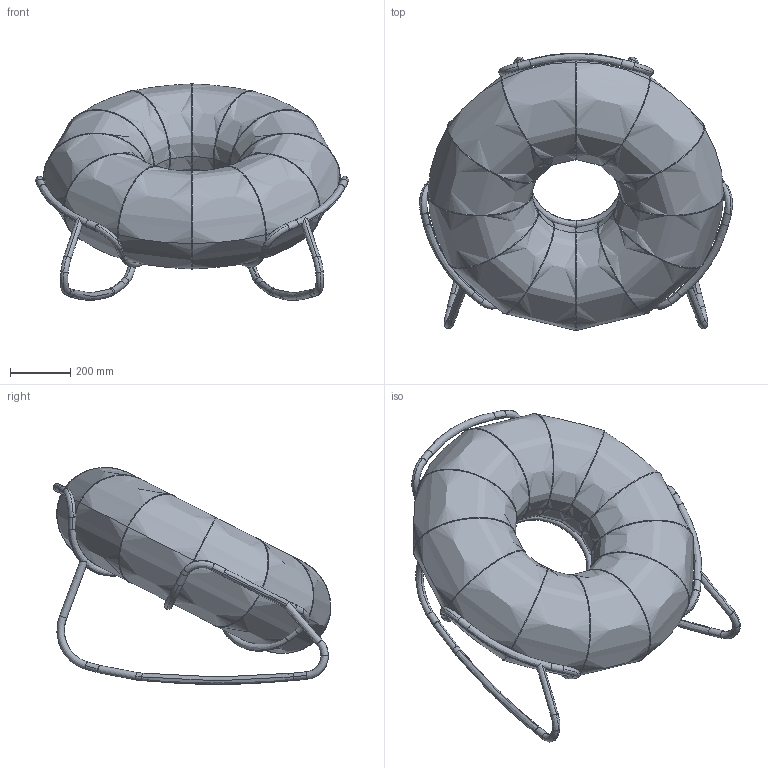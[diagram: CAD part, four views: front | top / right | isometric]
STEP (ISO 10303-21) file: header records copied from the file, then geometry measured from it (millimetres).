
FILE_DESCRIPTION(/* description */ (''),/* implementation_level */ '2;1');
FILE_NAME(/* name */ 'BLOOMO~1',/* time_stamp */ '2024-11-04T12:46:15+01:00',/* author */ (''),/* organization */ (''),/* preprocessor_version */ 'ST-DEVELOPER v16.5',/* originating_system */ '',/* authorisation */ '');
FILE_SCHEMA (('AUTOMOTIVE_DESIGN'));
Length unit declared in the file: millimetre
Products named in the file (4): Document; DON OUT TAMAÑO REAL; BLOOM OUT; DON  OUT 98
Assembly tree (3 placements, depth 3):
  Document
    DON OUT TAMAÑO REAL
      BLOOM OUT
      DON  OUT 98
Bounding box: 1037.73 x 920 x 719.24 mm (x, y, z)
Volume: 176994582.7 mm3; surface area: 2736230 mm2
Topology: 2 solids, 2 shells, 181 faces, 513 edges, 322 vertices
Faces by surface type: bspline 181
Entity records: 29978 total; most frequent: CARTESIAN_POINT 27284, ORIENTED_EDGE 1026, EDGE_CURVE 513, VERTEX_POINT 322, ADVANCED_FACE 181, FACE_OUTER_BOUND 181, EDGE_LOOP 181, B_SPLINE_CURVE_WITH_KNOTS 168
